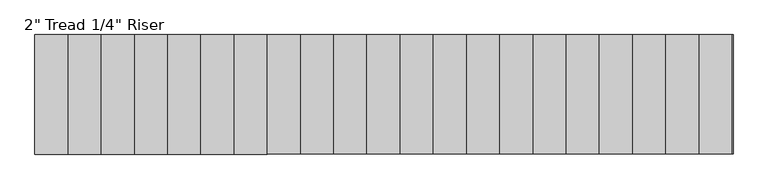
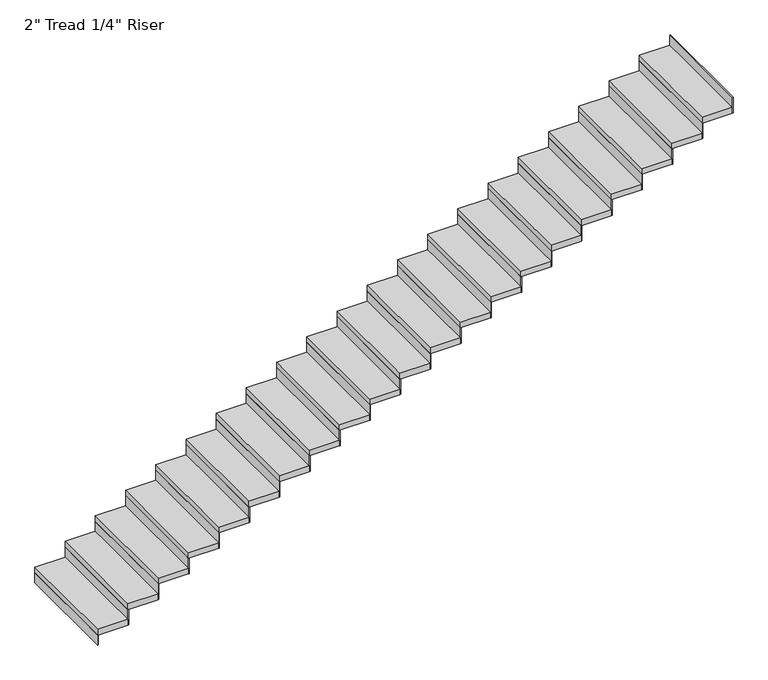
"""IFC4 building model written with IfcOpenShell, lengths in millimetres: stair flight geometry."""

from ifc_helpers import new_model, si_unit, frame, origin, origin_with_axes, place, context, project, spatial, polyline, outline, extrude, source, transform, mapped, element, save


def stair_flight_0c7f6dce(model_context):
    return source(origin(), model_context, "Body", "SweptSolid", [
        extrude(outline(polyline([(60465.3810647, -2400.7855758), (60459.0310647, -2400.7855758), (60459.0310647, -1486.3855758), (60465.3810647, -1486.3855758), (60465.3810647, -2400.7855758)])), origin_with_axes(), (0.0, 0.0, 1.0), 87.7454545),
        extrude(outline(polyline([(60713.0310647, -1486.3855758), (60713.0310647, -2400.7855758), (60459.0310647, -2400.7855758), (60459.0310647, -1486.3855758), (60713.0310647, -1486.3855758)])), frame((0.0, 0.0, 87.7454545), z_axis=(0.0, 0.0, 1.0), x_axis=(1.0, 0.0, 0.0)), (0.0, 0.0, 1.0), 50.8),
        extrude(outline(polyline([(60719.3810647, -2400.7855758), (60713.0310647, -2400.7855758), (60713.0310647, -1486.3855758), (60719.3810647, -1486.3855758), (60719.3810647, -2400.7855758)])), frame((0.0, 0.0, 87.7454545), z_axis=(0.0, 0.0, 1.0), x_axis=(1.0, 0.0, 0.0)), (0.0, 0.0, 1.0), 138.5454545),
        extrude(outline(polyline([(60967.0310647, -1486.3855758), (60967.0310647, -2400.7855758), (60713.0310647, -2400.7855758), (60713.0310647, -1486.3855758), (60967.0310647, -1486.3855758)])), frame((0.0, 0.0, 226.2909091), z_axis=(0.0, 0.0, 1.0), x_axis=(1.0, 0.0, 0.0)), (0.0, 0.0, 1.0), 50.8),
        extrude(outline(polyline([(60973.3810647, -2400.7855758), (60967.0310647, -2400.7855758), (60967.0310647, -1486.3855758), (60973.3810647, -1486.3855758), (60973.3810647, -2400.7855758)])), frame((0.0, 0.0, 226.2909091), z_axis=(0.0, 0.0, 1.0), x_axis=(1.0, 0.0, 0.0)), (0.0, 0.0, 1.0), 138.5454545),
        extrude(outline(polyline([(61221.0310647, -1486.3855758), (61221.0310647, -2400.7855758), (60967.0310647, -2400.7855758), (60967.0310647, -1486.3855758), (61221.0310647, -1486.3855758)])), frame((0.0, 0.0, 364.8363636), z_axis=(0.0, 0.0, 1.0), x_axis=(1.0, 0.0, 0.0)), (0.0, 0.0, 1.0), 50.8),
        extrude(outline(polyline([(61227.3810647, -2400.7855758), (61221.0310647, -2400.7855758), (61221.0310647, -1486.3855758), (61227.3810647, -1486.3855758), (61227.3810647, -2400.7855758)])), frame((0.0, 0.0, 364.8363636), z_axis=(0.0, 0.0, 1.0), x_axis=(1.0, 0.0, 0.0)), (0.0, 0.0, 1.0), 138.5454545),
        extrude(outline(polyline([(61475.0310647, -1486.3855758), (61475.0310647, -2400.7855758), (61221.0310647, -2400.7855758), (61221.0310647, -1486.3855758), (61475.0310647, -1486.3855758)])), frame((0.0, 0.0, 503.3818182), z_axis=(0.0, 0.0, 1.0), x_axis=(1.0, 0.0, 0.0)), (0.0, 0.0, 1.0), 50.8),
        extrude(outline(polyline([(61481.3810647, -2400.7855758), (61475.0310647, -2400.7855758), (61475.0310647, -1486.3855758), (61481.3810647, -1486.3855758), (61481.3810647, -2400.7855758)])), frame((0.0, 0.0, 503.3818182), z_axis=(0.0, 0.0, 1.0), x_axis=(1.0, 0.0, 0.0)), (0.0, 0.0, 1.0), 138.5454545),
        extrude(outline(polyline([(61729.0310647, -1486.3855758), (61729.0310647, -2400.7855758), (61475.0310647, -2400.7855758), (61475.0310647, -1486.3855758), (61729.0310647, -1486.3855758)])), frame((0.0, 0.0, 641.9272727), z_axis=(0.0, 0.0, 1.0), x_axis=(1.0, 0.0, 0.0)), (0.0, 0.0, 1.0), 50.8),
        extrude(outline(polyline([(61735.3810647, -2400.7855758), (61729.0310647, -2400.7855758), (61729.0310647, -1486.3855758), (61735.3810647, -1486.3855758), (61735.3810647, -2400.7855758)])), frame((0.0, 0.0, 641.9272727), z_axis=(0.0, 0.0, 1.0), x_axis=(1.0, 0.0, 0.0)), (0.0, 0.0, 1.0), 138.5454545),
        extrude(outline(polyline([(61983.0310647, -1486.3855758), (61983.0310647, -2400.7855758), (61729.0310647, -2400.7855758), (61729.0310647, -1486.3855758), (61983.0310647, -1486.3855758)])), frame((0.0, 0.0, 780.4727273), z_axis=(0.0, 0.0, 1.0), x_axis=(1.0, 0.0, 0.0)), (0.0, 0.0, 1.0), 50.8),
        extrude(outline(polyline([(61989.3810647, -2400.7855758), (61983.0310647, -2400.7855758), (61983.0310647, -1486.3855758), (61989.3810647, -1486.3855758), (61989.3810647, -2400.7855758)])), frame((0.0, 0.0, 780.4727273), z_axis=(0.0, 0.0, 1.0), x_axis=(1.0, 0.0, 0.0)), (0.0, 0.0, 1.0), 138.5454545),
        extrude(outline(polyline([(62237.0310647, -1486.3855758), (62237.0310647, -2400.7855758), (61983.0310647, -2400.7855758), (61983.0310647, -1486.3855758), (62237.0310647, -1486.3855758)])), frame((0.0, 0.0, 919.0181818), z_axis=(0.0, 0.0, 1.0), x_axis=(1.0, 0.0, 0.0)), (0.0, 0.0, 1.0), 50.8),
        extrude(outline(polyline([(62243.3810647, -2400.7855758), (62237.0310647, -2400.7855758), (62237.0310647, -1486.3855758), (62243.3810647, -1486.3855758), (62243.3810647, -2400.7855758)])), frame((0.0, 0.0, 919.0181818), z_axis=(0.0, 0.0, 1.0), x_axis=(1.0, 0.0, 0.0)), (0.0, 0.0, 1.0), 138.5454545),
        extrude(outline(polyline([(62491.0310647, -1486.3855758), (62491.0310647, -2400.7855758), (62237.0310647, -2400.7855758), (62237.0310647, -1486.3855758), (62491.0310647, -1486.3855758)])), frame((0.0, 0.0, 1057.5636364), z_axis=(0.0, 0.0, 1.0), x_axis=(1.0, 0.0, 0.0)), (0.0, 0.0, 1.0), 50.8),
        extrude(outline(polyline([(62497.3810647, -2400.7855758), (62491.0310647, -2400.7855758), (62491.0310647, -1486.3855758), (62497.3810647, -1486.3855758), (62497.3810647, -2400.7855758)])), frame((0.0, 0.0, 1057.5636364), z_axis=(0.0, 0.0, 1.0), x_axis=(1.0, 0.0, 0.0)), (0.0, 0.0, 1.0), 138.5454545),
        extrude(outline(polyline([(62745.0310647, -1486.3855758), (62745.0310647, -2400.7855758), (62491.0310647, -2400.7855758), (62491.0310647, -1486.3855758), (62745.0310647, -1486.3855758)])), frame((0.0, 0.0, 1196.1090909), z_axis=(0.0, 0.0, 1.0), x_axis=(1.0, 0.0, 0.0)), (0.0, 0.0, 1.0), 50.8),
        extrude(outline(polyline([(62751.3810647, -2400.7855758), (62745.0310647, -2400.7855758), (62745.0310647, -1486.3855758), (62751.3810647, -1486.3855758), (62751.3810647, -2400.7855758)])), frame((0.0, 0.0, 1196.1090909), z_axis=(0.0, 0.0, 1.0), x_axis=(1.0, 0.0, 0.0)), (0.0, 0.0, 1.0), 138.5454545),
        extrude(outline(polyline([(62999.0310647, -1486.3855758), (62999.0310647, -2400.7855758), (62745.0310647, -2400.7855758), (62745.0310647, -1486.3855758), (62999.0310647, -1486.3855758)])), frame((0.0, 0.0, 1334.6545455), z_axis=(0.0, 0.0, 1.0), x_axis=(1.0, 0.0, 0.0)), (0.0, 0.0, 1.0), 50.8),
        extrude(outline(polyline([(63005.3810647, -2400.7855758), (62999.0310647, -2400.7855758), (62999.0310647, -1486.3855758), (63005.3810647, -1486.3855758), (63005.3810647, -2400.7855758)])), frame((0.0, 0.0, 1334.6545455), z_axis=(0.0, 0.0, 1.0), x_axis=(1.0, 0.0, 0.0)), (0.0, 0.0, 1.0), 138.5454545),
        extrude(outline(polyline([(63253.0310647, -1486.3855758), (63253.0310647, -2400.7855758), (62999.0310647, -2400.7855758), (62999.0310647, -1486.3855758), (63253.0310647, -1486.3855758)])), frame((0.0, 0.0, 1473.2), z_axis=(0.0, 0.0, 1.0), x_axis=(1.0, 0.0, 0.0)), (0.0, 0.0, 1.0), 50.8),
        extrude(outline(polyline([(63259.3810647, -2400.7855758), (63253.0310647, -2400.7855758), (63253.0310647, -1486.3855758), (63259.3810647, -1486.3855758), (63259.3810647, -2400.7855758)])), frame((0.0, 0.0, 1473.2), z_axis=(0.0, 0.0, 1.0), x_axis=(1.0, 0.0, 0.0)), (0.0, 0.0, 1.0), 138.5454545),
        extrude(outline(polyline([(63507.0310647, -1486.3855758), (63507.0310647, -2400.7855758), (63253.0310647, -2400.7855758), (63253.0310647, -1486.3855758), (63507.0310647, -1486.3855758)])), frame((0.0, 0.0, 1611.7454545), z_axis=(0.0, 0.0, 1.0), x_axis=(1.0, 0.0, 0.0)), (0.0, 0.0, 1.0), 50.8),
        extrude(outline(polyline([(63513.3810647, -2400.7855758), (63507.0310647, -2400.7855758), (63507.0310647, -1486.3855758), (63513.3810647, -1486.3855758), (63513.3810647, -2400.7855758)])), frame((0.0, 0.0, 1611.7454545), z_axis=(0.0, 0.0, 1.0), x_axis=(1.0, 0.0, 0.0)), (0.0, 0.0, 1.0), 138.5454545),
        extrude(outline(polyline([(63761.0310647, -1486.3855758), (63761.0310647, -2400.7855758), (63507.0310647, -2400.7855758), (63507.0310647, -1486.3855758), (63761.0310647, -1486.3855758)])), frame((0.0, 0.0, 1750.2909091), z_axis=(0.0, 0.0, 1.0), x_axis=(1.0, 0.0, 0.0)), (0.0, 0.0, 1.0), 50.8),
        extrude(outline(polyline([(63767.3810647, -2400.7855758), (63761.0310647, -2400.7855758), (63761.0310647, -1486.3855758), (63767.3810647, -1486.3855758), (63767.3810647, -2400.7855758)])), frame((0.0, 0.0, 1750.2909091), z_axis=(0.0, 0.0, 1.0), x_axis=(1.0, 0.0, 0.0)), (0.0, 0.0, 1.0), 138.5454545),
        extrude(outline(polyline([(64015.0310647, -1486.3855758), (64015.0310647, -2400.7855758), (63761.0310647, -2400.7855758), (63761.0310647, -1486.3855758), (64015.0310647, -1486.3855758)])), frame((0.0, 0.0, 1888.8363636), z_axis=(0.0, 0.0, 1.0), x_axis=(1.0, 0.0, 0.0)), (0.0, 0.0, 1.0), 50.8),
        extrude(outline(polyline([(64021.3810647, -2400.7855758), (64015.0310647, -2400.7855758), (64015.0310647, -1486.3855758), (64021.3810647, -1486.3855758), (64021.3810647, -2400.7855758)])), frame((0.0, 0.0, 1888.8363636), z_axis=(0.0, 0.0, 1.0), x_axis=(1.0, 0.0, 0.0)), (0.0, 0.0, 1.0), 138.5454545),
        extrude(outline(polyline([(64269.0310647, -1486.3855758), (64269.0310647, -2400.7855758), (64015.0310647, -2400.7855758), (64015.0310647, -1486.3855758), (64269.0310647, -1486.3855758)])), frame((0.0, 0.0, 2027.3818182), z_axis=(0.0, 0.0, 1.0), x_axis=(1.0, 0.0, 0.0)), (0.0, 0.0, 1.0), 50.8),
        extrude(outline(polyline([(64275.3810647, -2400.7855758), (64269.0310647, -2400.7855758), (64269.0310647, -1486.3855758), (64275.3810647, -1486.3855758), (64275.3810647, -2400.7855758)])), frame((0.0, 0.0, 2027.3818182), z_axis=(0.0, 0.0, 1.0), x_axis=(1.0, 0.0, 0.0)), (0.0, 0.0, 1.0), 138.5454545),
        extrude(outline(polyline([(64523.0310647, -1486.3855758), (64523.0310647, -2400.7855758), (64269.0310647, -2400.7855758), (64269.0310647, -1486.3855758), (64523.0310647, -1486.3855758)])), frame((0.0, 0.0, 2165.9272727), z_axis=(0.0, 0.0, 1.0), x_axis=(1.0, 0.0, 0.0)), (0.0, 0.0, 1.0), 50.8),
        extrude(outline(polyline([(64529.3810647, -2400.7855758), (64523.0310647, -2400.7855758), (64523.0310647, -1486.3855758), (64529.3810647, -1486.3855758), (64529.3810647, -2400.7855758)])), frame((0.0, 0.0, 2165.9272727), z_axis=(0.0, 0.0, 1.0), x_axis=(1.0, 0.0, 0.0)), (0.0, 0.0, 1.0), 138.5454545),
        extrude(outline(polyline([(64777.0310647, -1486.3855758), (64777.0310647, -2400.7855758), (64523.0310647, -2400.7855758), (64523.0310647, -1486.3855758), (64777.0310647, -1486.3855758)])), frame((0.0, 0.0, 2304.4727273), z_axis=(0.0, 0.0, 1.0), x_axis=(1.0, 0.0, 0.0)), (0.0, 0.0, 1.0), 50.8),
        extrude(outline(polyline([(64783.3810647, -2400.7855758), (64777.0310647, -2400.7855758), (64777.0310647, -1486.3855758), (64783.3810647, -1486.3855758), (64783.3810647, -2400.7855758)])), frame((0.0, 0.0, 2304.4727273), z_axis=(0.0, 0.0, 1.0), x_axis=(1.0, 0.0, 0.0)), (0.0, 0.0, 1.0), 138.5454545),
        extrude(outline(polyline([(65031.0310647, -1486.3855758), (65031.0310647, -2400.7855758), (64777.0310647, -2400.7855758), (64777.0310647, -1486.3855758), (65031.0310647, -1486.3855758)])), frame((0.0, 0.0, 2443.0181818), z_axis=(0.0, 0.0, 1.0), x_axis=(1.0, 0.0, 0.0)), (0.0, 0.0, 1.0), 50.8),
        extrude(outline(polyline([(65037.3810647, -2400.7855758), (65031.0310647, -2400.7855758), (65031.0310647, -1486.3855758), (65037.3810647, -1486.3855758), (65037.3810647, -2400.7855758)])), frame((0.0, 0.0, 2443.0181818), z_axis=(0.0, 0.0, 1.0), x_axis=(1.0, 0.0, 0.0)), (0.0, 0.0, 1.0), 138.5454545),
        extrude(outline(polyline([(65285.0310647, -1486.3855758), (65285.0310647, -2400.7855758), (65031.0310647, -2400.7855758), (65031.0310647, -1486.3855758), (65285.0310647, -1486.3855758)])), frame((0.0, 0.0, 2581.5636364), z_axis=(0.0, 0.0, 1.0), x_axis=(1.0, 0.0, 0.0)), (0.0, 0.0, 1.0), 50.8),
        extrude(outline(polyline([(65291.3810647, -2400.7855758), (65285.0310647, -2400.7855758), (65285.0310647, -1486.3855758), (65291.3810647, -1486.3855758), (65291.3810647, -2400.7855758)])), frame((0.0, 0.0, 2581.5636364), z_axis=(0.0, 0.0, 1.0), x_axis=(1.0, 0.0, 0.0)), (0.0, 0.0, 1.0), 138.5454545),
        extrude(outline(polyline([(65539.0310647, -1486.3855758), (65539.0310647, -2400.7855758), (65285.0310647, -2400.7855758), (65285.0310647, -1486.3855758), (65539.0310647, -1486.3855758)])), frame((0.0, 0.0, 2720.1090909), z_axis=(0.0, 0.0, 1.0), x_axis=(1.0, 0.0, 0.0)), (0.0, 0.0, 1.0), 50.8),
        extrude(outline(polyline([(65545.3810647, -2400.7855758), (65539.0310647, -2400.7855758), (65539.0310647, -1486.3855758), (65545.3810647, -1486.3855758), (65545.3810647, -2400.7855758)])), frame((0.0, 0.0, 2720.1090909), z_axis=(0.0, 0.0, 1.0), x_axis=(1.0, 0.0, 0.0)), (0.0, 0.0, 1.0), 138.5454545),
        extrude(outline(polyline([(65799.3810647, -2400.7855758), (65793.0310647, -2400.7855758), (65793.0310647, -1486.3855758), (65799.3810647, -1486.3855758), (65799.3810647, -2400.7855758)])), frame((0.0, 0.0, 2858.6545455), z_axis=(0.0, 0.0, 1.0), x_axis=(1.0, 0.0, 0.0)), (0.0, 0.0, 1.0), 138.5454545),
        extrude(outline(polyline([(65793.0310647, -1486.3855758), (65793.0310647, -2400.7855758), (65539.0310647, -2400.7855758), (65539.0310647, -1486.3855758), (65793.0310647, -1486.3855758)])), frame((0.0, 0.0, 2858.6545455), z_axis=(0.0, 0.0, 1.0), x_axis=(1.0, 0.0, 0.0)), (0.0, 0.0, 1.0), 50.8),
    ])


if __name__ == "__main__":
    model = new_model("IFC4")
    model_context = context("Model", 3, world=origin())
    ifc_project = project(units=[si_unit("LENGTHUNIT", "METRE", prefix="MILLI")], contexts=[model_context])
    site = spatial("IfcSite", under=ifc_project)
    building = spatial("IfcBuilding", under=site)
    placement = place(None, origin())
    stair_flight_shape = stair_flight_0c7f6dce(model_context)
    element("IfcStairFlight", 1, ObjectType="2\" Tread 1/4\" Riser", at=placement, inside=building, context=model_context, shape_type="MappedRepresentation", body=[
        mapped(stair_flight_shape, transform((0.0, 0.0, 0.0), x_axis=(1.0, 0.0, 0.0), y_axis=(0.0, 1.0, 0.0), z_axis=(0.0, 0.0, 1.0))),
    ])
    save(model, "model.ifc")
